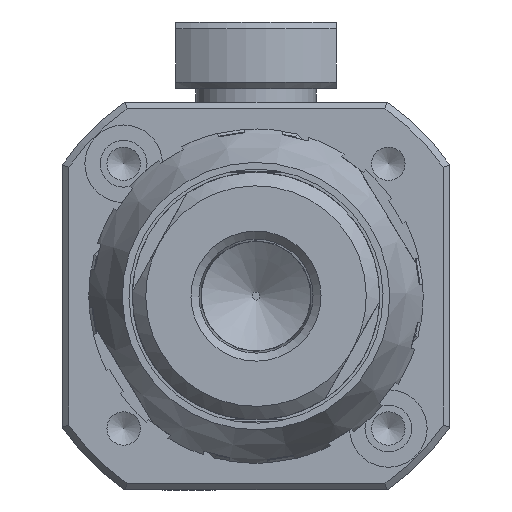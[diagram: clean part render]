
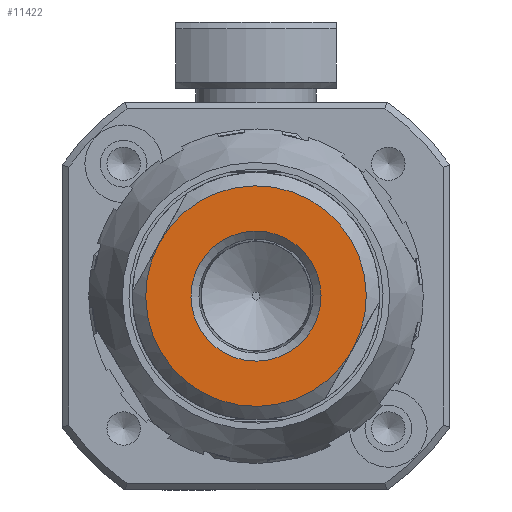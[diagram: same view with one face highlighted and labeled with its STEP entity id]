
A CAD part, front view. The second image highlights one B-rep face of the part: STEP entity #11422.
In plain terms, the highlighted planar face has unit normal (0, -1, 0).
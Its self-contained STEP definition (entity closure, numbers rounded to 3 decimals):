
#268 = DIRECTION ( 'NONE',  ( -0.873, 0., 0.487 ) ) ;
#531 = FACE_BOUND ( 'NONE', #7130, .T. ) ;
#2001 = DIRECTION ( 'NONE',  ( -0.873, 0., 0.487 ) ) ;
#4620 = CARTESIAN_POINT ( 'NONE',  ( -8.087, -172.406, 998.499 ) ) ;
#6623 = DIRECTION ( 'NONE',  ( 0., -1., 0. ) ) ;
#7130 = EDGE_LOOP ( 'NONE', ( #35418 ) ) ;
#9244 = ORIENTED_EDGE ( 'NONE', *, *, #38038, .T. ) ;
#9715 = VERTEX_POINT ( 'NONE', #24573 ) ;
#11422 = ADVANCED_FACE ( 'NONE', ( #531, #42704 ), #17127, .F. ) ;
#12768 = CARTESIAN_POINT ( 'NONE',  ( -8.087, -172.406, 998.499 ) ) ;
#13039 = DIRECTION ( 'NONE',  ( 0.873, 0., -0.487 ) ) ;
#13996 = DIRECTION ( 'NONE',  ( 0., -1., 0. ) ) ;
#14268 = DIRECTION ( 'NONE',  ( -0.873, 0., 0.487 ) ) ;
#17127 = PLANE ( 'NONE',  #19203 ) ;
#19203 = AXIS2_PLACEMENT_3D ( 'NONE', #12768, #33735, #13039 ) ;
#19253 = CIRCLE ( 'NONE', #51409, 8.25 ) ;
#20071 = AXIS2_PLACEMENT_3D ( 'NONE', #4620, #21222, #268 ) ;
#21222 = DIRECTION ( 'NONE',  ( 0., -1., 0. ) ) ;
#23771 = ORIENTED_EDGE ( 'NONE', *, *, #53245, .T. ) ;
#24573 = CARTESIAN_POINT ( 'NONE',  ( -15.293, -172.406, 1002.517 ) ) ;
#25300 = EDGE_LOOP ( 'NONE', ( #9244, #23771 ) ) ;
#25432 = CIRCLE ( 'NONE', #32396, 8.25 ) ;
#29645 = CIRCLE ( 'NONE', #20071, 4.864 ) ;
#31171 = CARTESIAN_POINT ( 'NONE',  ( -8.087, -172.406, 998.499 ) ) ;
#31459 = CARTESIAN_POINT ( 'NONE',  ( -0.882, -172.406, 994.48 ) ) ;
#32396 = AXIS2_PLACEMENT_3D ( 'NONE', #43098, #6623, #2001 ) ;
#33735 = DIRECTION ( 'NONE',  ( 0., 1., 0. ) ) ;
#35418 = ORIENTED_EDGE ( 'NONE', *, *, #52440, .F. ) ;
#36679 = CARTESIAN_POINT ( 'NONE',  ( -12.335, -172.406, 1000.868 ) ) ;
#38038 = EDGE_CURVE ( 'NONE', #9715, #38763, #25432, .T. ) ;
#38763 = VERTEX_POINT ( 'NONE', #31459 ) ;
#42704 = FACE_OUTER_BOUND ( 'NONE', #25300, .T. ) ;
#43098 = CARTESIAN_POINT ( 'NONE',  ( -8.087, -172.406, 998.499 ) ) ;
#51409 = AXIS2_PLACEMENT_3D ( 'NONE', #31171, #13996, #14268 ) ;
#52440 = EDGE_CURVE ( 'NONE', #53284, #53284, #29645, .T. ) ;
#53245 = EDGE_CURVE ( 'NONE', #38763, #9715, #19253, .T. ) ;
#53284 = VERTEX_POINT ( 'NONE', #36679 ) ;
